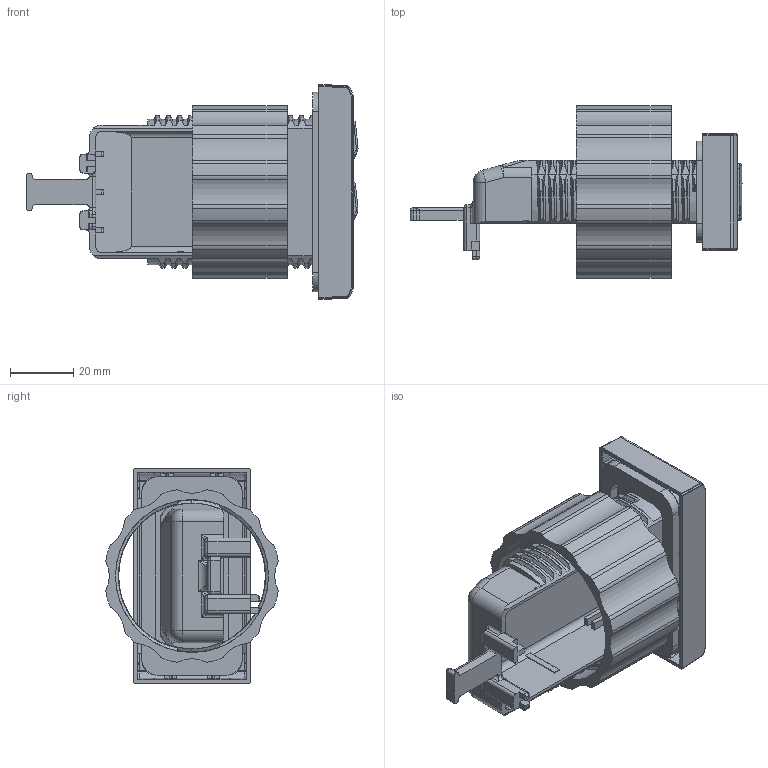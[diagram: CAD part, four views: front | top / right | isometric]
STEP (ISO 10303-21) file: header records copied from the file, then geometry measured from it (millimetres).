
FILE_DESCRIPTION((''),'2;1');
FILE_NAME('164200-37210_ASM','2019-09-30T',('ib46307'),('YANMAR CO., LTD.'),'PRO/ENGINEER BY PARAMETRIC TECHNOLOGY CORPORATION, 2015360','PRO/ENGINEER BY PARAMETRIC TECHNOLOGY CORPORATION, 2015360','');
FILE_SCHEMA(('CONFIG_CONTROL_DESIGN'));
Products named in the file (11): 084BA-201_3; 084BA-204_3; 084BA-303_3; 084BA-701_3; 084BA-702_3; 20181211_SW_OUTER_COVER_1_1; 084BA-205X_2; FB160-704_3; 084BA-202X_P001__3; 190611_SINGLE_ASM_4_ASM; 164200-37210_ASM
Assembly tree (10 placements, depth 3):
  164200-37210_ASM
    190611_SINGLE_ASM_4_ASM
      084BA-201_3
      084BA-204_3
      084BA-303_3
      084BA-701_3
      084BA-702_3
      20181211_SW_OUTER_COVER_1_1
      084BA-205X_2
      FB160-704_3
      084BA-202X_P001__3
Bounding box: 104.86 x 54.36 x 68 mm (x, y, z)
Volume: 51945.5 mm3; surface area: 55031.6 mm2
Topology: 9 solids, 12 shells, 2171 faces, 5597 edges, 3452 vertices
Faces by surface type: plane 770, cylinder 679, bspline 521, torus 115, cone 50, sphere 30, extrusion 6
Entity records: 85022 total; most frequent: CARTESIAN_POINT 36364, ORIENTED_EDGE 11085, DIRECTION 8365, EDGE_CURVE 5558, VERTEX_POINT 3452, VECTOR 2855, LINE 2849, AXIS2_PLACEMENT_3D 2755
